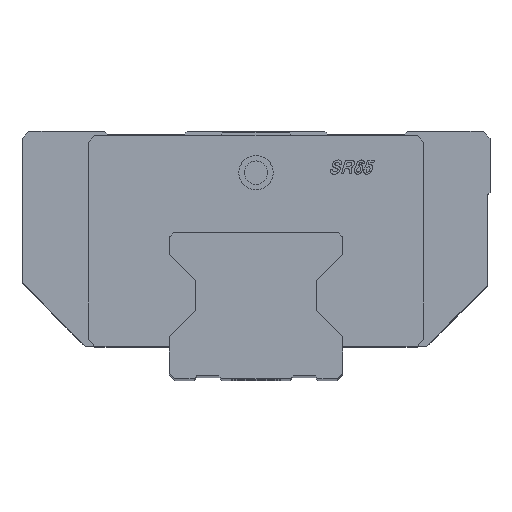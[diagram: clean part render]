
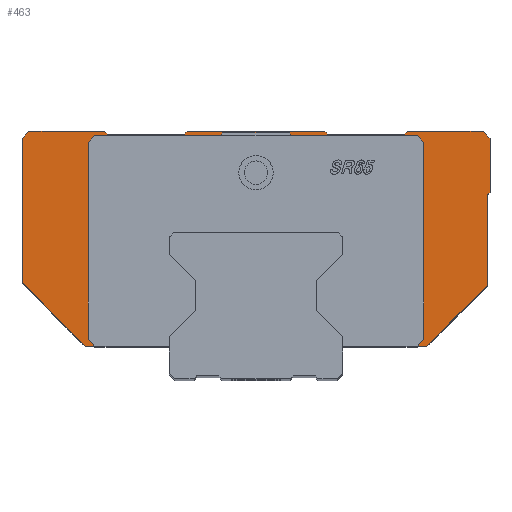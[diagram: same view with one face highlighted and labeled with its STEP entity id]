
A CAD part, top view. The second image highlights one B-rep face of the part: STEP entity #463.
In plain terms, the highlighted planar face has unit normal (0, 0, 1).
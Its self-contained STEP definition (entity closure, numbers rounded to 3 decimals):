
#463=ADVANCED_FACE('',(#834),#705,.T.);
#705=PLANE('',#5565);
#834=FACE_OUTER_BOUND('',#1114,.T.);
#1114=EDGE_LOOP('',(#2300,#2301,#2302,#2303,#2304,#2305,#2306,#2307,#2308,
#2309,#2310,#2311,#2312,#2313,#2314,#2315,#2316,#2317,#2318,#2319,#2320,
#2321,#2322,#2323,#2324,#2325,#2326,#2327,#2328,#2329));
#2300=ORIENTED_EDGE('',*,*,#4117,.F.);
#2301=ORIENTED_EDGE('',*,*,#4118,.F.);
#2302=ORIENTED_EDGE('',*,*,#4119,.F.);
#2303=ORIENTED_EDGE('',*,*,#4120,.F.);
#2304=ORIENTED_EDGE('',*,*,#4121,.F.);
#2305=ORIENTED_EDGE('',*,*,#4122,.F.);
#2306=ORIENTED_EDGE('',*,*,#4123,.F.);
#2307=ORIENTED_EDGE('',*,*,#4124,.F.);
#2308=ORIENTED_EDGE('',*,*,#4125,.F.);
#2309=ORIENTED_EDGE('',*,*,#3994,.F.);
#2310=ORIENTED_EDGE('',*,*,#4116,.F.);
#2311=ORIENTED_EDGE('',*,*,#4114,.F.);
#2312=ORIENTED_EDGE('',*,*,#4112,.F.);
#2313=ORIENTED_EDGE('',*,*,#4106,.F.);
#2314=ORIENTED_EDGE('',*,*,#4126,.F.);
#2315=ORIENTED_EDGE('',*,*,#4127,.F.);
#2316=ORIENTED_EDGE('',*,*,#4128,.F.);
#2317=ORIENTED_EDGE('',*,*,#4129,.F.);
#2318=ORIENTED_EDGE('',*,*,#4130,.F.);
#2319=ORIENTED_EDGE('',*,*,#4131,.F.);
#2320=ORIENTED_EDGE('',*,*,#4132,.F.);
#2321=ORIENTED_EDGE('',*,*,#4074,.F.);
#2322=ORIENTED_EDGE('',*,*,#4133,.F.);
#2323=ORIENTED_EDGE('',*,*,#4134,.F.);
#2324=ORIENTED_EDGE('',*,*,#4135,.F.);
#2325=ORIENTED_EDGE('',*,*,#4136,.F.);
#2326=ORIENTED_EDGE('',*,*,#4137,.F.);
#2327=ORIENTED_EDGE('',*,*,#4138,.F.);
#2328=ORIENTED_EDGE('',*,*,#4139,.F.);
#2329=ORIENTED_EDGE('',*,*,#4140,.F.);
#3426=VERTEX_POINT('',#7759);
#3428=VERTEX_POINT('',#7762);
#3498=VERTEX_POINT('',#7925);
#3499=VERTEX_POINT('',#7927);
#3520=VERTEX_POINT('',#7992);
#3521=VERTEX_POINT('',#7994);
#3526=VERTEX_POINT('',#8006);
#3527=VERTEX_POINT('',#8010);
#3528=VERTEX_POINT('',#8016);
#3529=VERTEX_POINT('',#8017);
#3530=VERTEX_POINT('',#8019);
#3531=VERTEX_POINT('',#8021);
#3532=VERTEX_POINT('',#8023);
#3533=VERTEX_POINT('',#8025);
#3534=VERTEX_POINT('',#8027);
#3535=VERTEX_POINT('',#8029);
#3536=VERTEX_POINT('',#8031);
#3537=VERTEX_POINT('',#8034);
#3538=VERTEX_POINT('',#8036);
#3539=VERTEX_POINT('',#8038);
#3540=VERTEX_POINT('',#8040);
#3541=VERTEX_POINT('',#8042);
#3542=VERTEX_POINT('',#8044);
#3543=VERTEX_POINT('',#8047);
#3544=VERTEX_POINT('',#8049);
#3545=VERTEX_POINT('',#8051);
#3546=VERTEX_POINT('',#8053);
#3547=VERTEX_POINT('',#8055);
#3548=VERTEX_POINT('',#8057);
#3549=VERTEX_POINT('',#8059);
#3994=EDGE_CURVE('',#3426,#3428,#4597,.T.);
#4074=EDGE_CURVE('',#3498,#3499,#4658,.T.);
#4106=EDGE_CURVE('',#3520,#3521,#4674,.T.);
#4112=EDGE_CURVE('',#3521,#3526,#4676,.T.);
#4114=EDGE_CURVE('',#3526,#3527,#4678,.T.);
#4116=EDGE_CURVE('',#3527,#3426,#4680,.T.);
#4117=EDGE_CURVE('',#3528,#3529,#4681,.T.);
#4118=EDGE_CURVE('',#3530,#3528,#4682,.T.);
#4119=EDGE_CURVE('',#3531,#3530,#4683,.T.);
#4120=EDGE_CURVE('',#3532,#3531,#4684,.T.);
#4121=EDGE_CURVE('',#3533,#3532,#4685,.T.);
#4122=EDGE_CURVE('',#3534,#3533,#4686,.T.);
#4123=EDGE_CURVE('',#3535,#3534,#4687,.T.);
#4124=EDGE_CURVE('',#3536,#3535,#4688,.T.);
#4125=EDGE_CURVE('',#3428,#3536,#4689,.T.);
#4126=EDGE_CURVE('',#3537,#3520,#4690,.T.);
#4127=EDGE_CURVE('',#3538,#3537,#4691,.T.);
#4128=EDGE_CURVE('',#3539,#3538,#4692,.T.);
#4129=EDGE_CURVE('',#3540,#3539,#4693,.T.);
#4130=EDGE_CURVE('',#3541,#3540,#4694,.T.);
#4131=EDGE_CURVE('',#3542,#3541,#4695,.T.);
#4132=EDGE_CURVE('',#3499,#3542,#4696,.T.);
#4133=EDGE_CURVE('',#3543,#3498,#4697,.T.);
#4134=EDGE_CURVE('',#3544,#3543,#4698,.T.);
#4135=EDGE_CURVE('',#3545,#3544,#4699,.T.);
#4136=EDGE_CURVE('',#3546,#3545,#4700,.T.);
#4137=EDGE_CURVE('',#3547,#3546,#4701,.T.);
#4138=EDGE_CURVE('',#3548,#3547,#4702,.T.);
#4139=EDGE_CURVE('',#3549,#3548,#4703,.T.);
#4140=EDGE_CURVE('',#3529,#3549,#4704,.T.);
#4597=LINE('',#7761,#5008);
#4658=LINE('',#7926,#5069);
#4674=LINE('',#7993,#5085);
#4676=LINE('',#8005,#5087);
#4678=LINE('',#8009,#5089);
#4680=LINE('',#8013,#5091);
#4681=LINE('',#8015,#5092);
#4682=LINE('',#8018,#5093);
#4683=LINE('',#8020,#5094);
#4684=LINE('',#8022,#5095);
#4685=LINE('',#8024,#5096);
#4686=LINE('',#8026,#5097);
#4687=LINE('',#8028,#5098);
#4688=LINE('',#8030,#5099);
#4689=LINE('',#8032,#5100);
#4690=LINE('',#8033,#5101);
#4691=LINE('',#8035,#5102);
#4692=LINE('',#8037,#5103);
#4693=LINE('',#8039,#5104);
#4694=LINE('',#8041,#5105);
#4695=LINE('',#8043,#5106);
#4696=LINE('',#8045,#5107);
#4697=LINE('',#8046,#5108);
#4698=LINE('',#8048,#5109);
#4699=LINE('',#8050,#5110);
#4700=LINE('',#8052,#5111);
#4701=LINE('',#8054,#5112);
#4702=LINE('',#8056,#5113);
#4703=LINE('',#8058,#5114);
#4704=LINE('',#8060,#5115);
#5008=VECTOR('',#6076,1.);
#5069=VECTOR('',#6191,1.);
#5085=VECTOR('',#6265,1.);
#5087=VECTOR('',#6277,1.);
#5089=VECTOR('',#6281,1.);
#5091=VECTOR('',#6285,1.);
#5092=VECTOR('',#6288,1.);
#5093=VECTOR('',#6289,1.);
#5094=VECTOR('',#6290,1.);
#5095=VECTOR('',#6291,1.);
#5096=VECTOR('',#6292,1.);
#5097=VECTOR('',#6293,1.);
#5098=VECTOR('',#6294,1.);
#5099=VECTOR('',#6295,1.);
#5100=VECTOR('',#6296,1.);
#5101=VECTOR('',#6297,1.);
#5102=VECTOR('',#6298,1.);
#5103=VECTOR('',#6299,1.);
#5104=VECTOR('',#6300,1.);
#5105=VECTOR('',#6301,1.);
#5106=VECTOR('',#6302,1.);
#5107=VECTOR('',#6303,1.);
#5108=VECTOR('',#6304,1.);
#5109=VECTOR('',#6305,1.);
#5110=VECTOR('',#6306,1.);
#5111=VECTOR('',#6307,1.);
#5112=VECTOR('',#6308,1.);
#5113=VECTOR('',#6309,1.);
#5114=VECTOR('',#6310,1.);
#5115=VECTOR('',#6311,1.);
#5565=AXIS2_PLACEMENT_3D('',#8061,#6312,#6313);
#6076=DIRECTION('',(1.,0.,0.));
#6191=DIRECTION('',(-1.,0.,0.));
#6265=DIRECTION('',(1.,0.,0.));
#6277=DIRECTION('',(0.707,-0.707,0.));
#6281=DIRECTION('',(1.,0.,0.));
#6285=DIRECTION('',(0.707,0.707,0.));
#6288=DIRECTION('',(-0.707,0.707,0.));
#6289=DIRECTION('',(0.,1.,0.));
#6290=DIRECTION('',(0.707,0.707,0.));
#6291=DIRECTION('',(-1.,0.,0.));
#6292=DIRECTION('',(-0.707,-0.707,0.));
#6293=DIRECTION('',(0.,-1.,0.));
#6294=DIRECTION('',(-0.707,-0.707,0.));
#6295=DIRECTION('',(0.,-1.,0.));
#6296=DIRECTION('',(0.707,-0.707,0.));
#6297=DIRECTION('',(0.707,0.707,0.));
#6298=DIRECTION('',(1.,0.,0.));
#6299=DIRECTION('',(0.707,-0.707,0.));
#6300=DIRECTION('',(1.,0.,0.));
#6301=DIRECTION('',(0.707,0.707,0.));
#6302=DIRECTION('',(0.,1.,0.));
#6303=DIRECTION('',(-0.707,0.707,0.));
#6304=DIRECTION('',(0.707,-0.707,0.));
#6305=DIRECTION('',(0.,-1.,0.));
#6306=DIRECTION('',(-0.707,-0.707,0.));
#6307=DIRECTION('',(-1.,0.,0.));
#6308=DIRECTION('',(-0.707,-0.707,0.));
#6309=DIRECTION('',(-1.,0.,0.));
#6310=DIRECTION('',(-0.707,0.707,0.));
#6311=DIRECTION('',(-1.,0.,0.));
#6312=DIRECTION('',(0.,0.,1.));
#6313=DIRECTION('',(1.,0.,0.));
#7759=CARTESIAN_POINT('',(55.,0.,80.));
#7761=CARTESIAN_POINT('',(55.,0.,80.));
#7762=CARTESIAN_POINT('',(82.5,0.,80.));
#7925=CARTESIAN_POINT('',(-58.5,-78.,80.));
#7926=CARTESIAN_POINT('',(-58.5,-78.,80.));
#7927=CARTESIAN_POINT('',(-62.,-78.,80.));
#7992=CARTESIAN_POINT('',(-25.,0.,80.));
#7993=CARTESIAN_POINT('',(-25.,0.,80.));
#7994=CARTESIAN_POINT('',(25.,0.,80.));
#8005=CARTESIAN_POINT('',(25.,0.,80.));
#8006=CARTESIAN_POINT('',(26.,-1.,80.));
#8009=CARTESIAN_POINT('',(26.,-1.,80.));
#8010=CARTESIAN_POINT('',(54.,-1.,80.));
#8013=CARTESIAN_POINT('',(54.,-1.,80.));
#8015=CARTESIAN_POINT('',(61.,-4.,80.));
#8016=CARTESIAN_POINT('',(61.,-4.,80.));
#8017=CARTESIAN_POINT('',(58.5,-1.5,80.));
#8018=CARTESIAN_POINT('',(61.,-75.5,80.));
#8019=CARTESIAN_POINT('',(61.,-75.5,80.));
#8020=CARTESIAN_POINT('',(58.5,-78.,80.));
#8021=CARTESIAN_POINT('',(58.5,-78.,80.));
#8022=CARTESIAN_POINT('',(62.,-78.,80.));
#8023=CARTESIAN_POINT('',(62.,-78.,80.));
#8024=CARTESIAN_POINT('',(84.,-56.,80.));
#8025=CARTESIAN_POINT('',(84.,-56.,80.));
#8026=CARTESIAN_POINT('',(84.,-23.,80.));
#8027=CARTESIAN_POINT('',(84.,-23.,80.));
#8028=CARTESIAN_POINT('',(85.,-22.,80.));
#8029=CARTESIAN_POINT('',(85.,-22.,80.));
#8030=CARTESIAN_POINT('',(85.,-2.5,80.));
#8031=CARTESIAN_POINT('',(85.,-2.5,80.));
#8032=CARTESIAN_POINT('',(82.5,0.,80.));
#8033=CARTESIAN_POINT('',(-26.,-1.,80.));
#8034=CARTESIAN_POINT('',(-26.,-1.,80.));
#8035=CARTESIAN_POINT('',(-54.,-1.,80.));
#8036=CARTESIAN_POINT('',(-54.,-1.,80.));
#8037=CARTESIAN_POINT('',(-55.,0.,80.));
#8038=CARTESIAN_POINT('',(-55.,0.,80.));
#8039=CARTESIAN_POINT('',(-82.5,0.,80.));
#8040=CARTESIAN_POINT('',(-82.5,0.,80.));
#8041=CARTESIAN_POINT('',(-85.,-2.5,80.));
#8042=CARTESIAN_POINT('',(-85.,-2.5,80.));
#8043=CARTESIAN_POINT('',(-85.,-55.,80.));
#8044=CARTESIAN_POINT('',(-85.,-55.,80.));
#8045=CARTESIAN_POINT('',(-62.,-78.,80.));
#8046=CARTESIAN_POINT('',(-61.,-75.5,80.));
#8047=CARTESIAN_POINT('',(-61.,-75.5,80.));
#8048=CARTESIAN_POINT('',(-61.,-4.,80.));
#8049=CARTESIAN_POINT('',(-61.,-4.,80.));
#8050=CARTESIAN_POINT('',(-58.5,-1.5,80.));
#8051=CARTESIAN_POINT('',(-58.5,-1.5,80.));
#8052=CARTESIAN_POINT('',(-13.,-1.5,80.));
#8053=CARTESIAN_POINT('',(-13.,-1.5,80.));
#8054=CARTESIAN_POINT('',(-12.,-0.5,80.));
#8055=CARTESIAN_POINT('',(-12.,-0.5,80.));
#8056=CARTESIAN_POINT('',(12.,-0.5,80.));
#8057=CARTESIAN_POINT('',(12.,-0.5,80.));
#8058=CARTESIAN_POINT('',(13.,-1.5,80.));
#8059=CARTESIAN_POINT('',(13.,-1.5,80.));
#8060=CARTESIAN_POINT('',(58.5,-1.5,80.));
#8061=CARTESIAN_POINT('',(-93.5,-81.9,80.));
